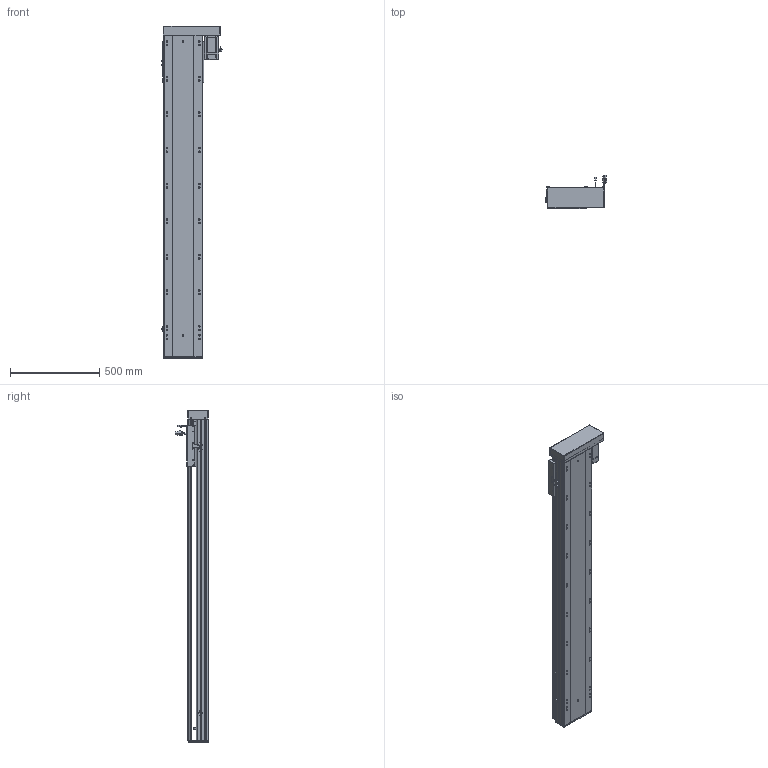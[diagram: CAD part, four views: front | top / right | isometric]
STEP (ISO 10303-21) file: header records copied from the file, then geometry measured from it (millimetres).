
FILE_DESCRIPTION (( 'STEP AP203' ), '1' );
FILE_NAME ('RY220-L2525-800-RK-邧嶺.SLDASM_1450.step', '2022-08-06T08:53:15', ( '' ), ( '' ), 'SwSTEP 2.0', 'SolidWorks 2016', '' );
FILE_SCHEMA (( 'CONFIG_CONTROL_DESIGN' ));
Length unit declared in the file: millimetre
Products named in the file (12): 怢湛750W_ECMA-CX0807ES; RY220左右折电机安装板; RY220-L2525-800-RK-邧嶺.SLDASM_1450; RY220酘衵殏萇儂欶; 滅袉蝶18-10; RY220綴裔啣; RY220-800-蛌殏奻裔啣_1450; RY220蛌殏菁釱-800-邧嶺_1450; 滅袉蝶18-15; RY220-俋离672覜茼んえ; RY220半封闭25-32螺母铝滑块; 覜茼ん672
Assembly tree (15 placements, depth 2):
  RY220-L2525-800-RK-邧嶺.SLDASM_1450
    RY220蛌殏菁釱-800-邧嶺_1450
    RY220-800-蛌殏奻裔啣_1450
    怢湛750W_ECMA-CX0807ES
    滅袉蝶18-10  x2
    RY220-俋离672覜茼んえ
    覜茼ん672  x3
    RY220綴裔啣
    RY220半封闭25-32螺母铝滑块
    滅袉蝶18-15  x2
    RY220左右折电机安装板
    RY220酘衵殏萇儂欶
Bounding box: 347.44 x 187.27 x 1864 mm (x, y, z)
Volume: 14646035.7 mm3; surface area: 4391180.7 mm2
Topology: 16 solids, 16 shells, 2273 faces, 6280 edges, 3955 vertices
Faces by surface type: cylinder 1045, plane 904, cone 254, bspline 44, sphere 16, torus 10
Entity records: 75155 total; most frequent: CARTESIAN_POINT 21701, ORIENTED_EDGE 11080, DIRECTION 10492, EDGE_CURVE 5540, AXIS2_PLACEMENT_3D 3711, VERTEX_POINT 3611, LINE 3070, VECTOR 3070
